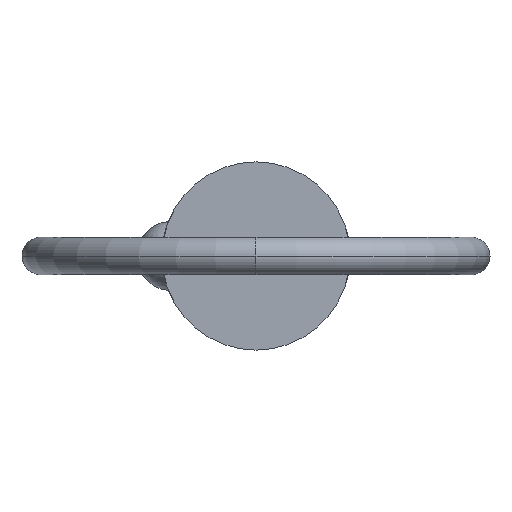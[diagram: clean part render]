
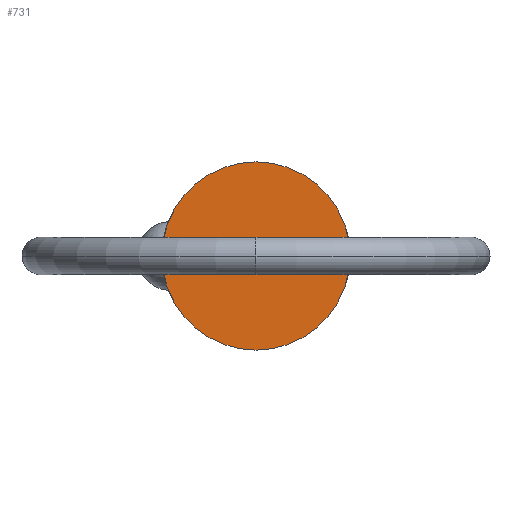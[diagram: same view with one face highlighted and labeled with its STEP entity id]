
A CAD part, left-side view. The second image highlights one B-rep face of the part: STEP entity #731.
In plain terms, the highlighted planar face has unit normal (-1, 0, 0).
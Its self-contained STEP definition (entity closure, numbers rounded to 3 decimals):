
#72 = DIRECTION ( 'NONE',  ( 0., 0., 1. ) ) ;
#99 = EDGE_CURVE ( 'NONE', #469, #838, #767, .T. ) ;
#138 = PLANE ( 'NONE',  #353 ) ;
#160 = DIRECTION ( 'NONE',  ( 1., 0., 0. ) ) ;
#240 = EDGE_LOOP ( 'NONE', ( #583, #428 ) ) ;
#257 = DIRECTION ( 'NONE',  ( 0., 0., -1. ) ) ;
#353 = AXIS2_PLACEMENT_3D ( 'NONE', #805, #675, #72 ) ;
#411 = AXIS2_PLACEMENT_3D ( 'NONE', #763, #160, #751 ) ;
#428 = ORIENTED_EDGE ( 'NONE', *, *, #739, .F. ) ;
#466 = CARTESIAN_POINT ( 'NONE',  ( 0., 0., 5.555 ) ) ;
#469 = VERTEX_POINT ( 'NONE', #771 ) ;
#583 = ORIENTED_EDGE ( 'NONE', *, *, #99, .F. ) ;
#674 = CIRCLE ( 'NONE', #411, 5.555 ) ;
#675 = DIRECTION ( 'NONE',  ( -1., 0., 0. ) ) ;
#727 = CARTESIAN_POINT ( 'NONE',  ( 0., 0., 0. ) ) ;
#731 = ADVANCED_FACE ( 'NONE', ( #734 ), #138, .T. ) ;
#734 = FACE_OUTER_BOUND ( 'NONE', #240, .T. ) ;
#739 = EDGE_CURVE ( 'NONE', #838, #469, #674, .T. ) ;
#751 = DIRECTION ( 'NONE',  ( 0., 0., -1. ) ) ;
#763 = CARTESIAN_POINT ( 'NONE',  ( 0., 0., 0. ) ) ;
#767 = CIRCLE ( 'NONE', #827, 5.555 ) ;
#771 = CARTESIAN_POINT ( 'NONE',  ( 0., 0., -5.555 ) ) ;
#790 = DIRECTION ( 'NONE',  ( 1., 0., 0. ) ) ;
#805 = CARTESIAN_POINT ( 'NONE',  ( 0., 0., 0. ) ) ;
#827 = AXIS2_PLACEMENT_3D ( 'NONE', #727, #790, #257 ) ;
#838 = VERTEX_POINT ( 'NONE', #466 ) ;
